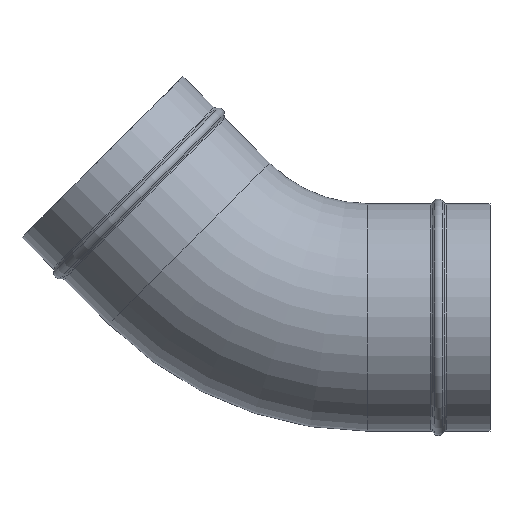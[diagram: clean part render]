
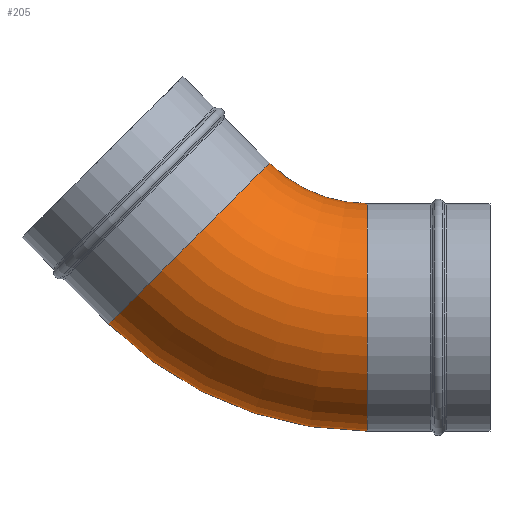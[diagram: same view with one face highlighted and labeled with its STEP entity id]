
A CAD part, top view. The second image highlights one B-rep face of the part: STEP entity #205.
In plain terms, the highlighted toroidal (fillet/blend) face has major radius 168 mm and minor radius 76 mm.
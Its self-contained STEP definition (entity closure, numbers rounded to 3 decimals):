
#205=ADVANCED_FACE('',(#295),#267,.T.);
#267=TOROIDAL_SURFACE('',#994,168.,76.);
#295=FACE_OUTER_BOUND('',#355,.T.);
#355=EDGE_LOOP('',(#419,#420,#421,#422,#423,#424));
#419=ORIENTED_EDGE('',*,*,#755,.T.);
#420=ORIENTED_EDGE('',*,*,#756,.T.);
#421=ORIENTED_EDGE('',*,*,#757,.T.);
#422=ORIENTED_EDGE('',*,*,#758,.F.);
#423=ORIENTED_EDGE('',*,*,#759,.F.);
#424=ORIENTED_EDGE('',*,*,#760,.F.);
#683=VERTEX_POINT('',#1510);
#684=VERTEX_POINT('',#1511);
#685=VERTEX_POINT('',#1513);
#686=VERTEX_POINT('',#1515);
#687=VERTEX_POINT('',#1517);
#688=VERTEX_POINT('',#1519);
#755=EDGE_CURVE('',#683,#684,#887,.T.);
#756=EDGE_CURVE('',#684,#685,#888,.T.);
#757=EDGE_CURVE('',#685,#686,#889,.T.);
#758=EDGE_CURVE('',#687,#686,#890,.T.);
#759=EDGE_CURVE('',#688,#687,#891,.T.);
#760=EDGE_CURVE('',#683,#688,#892,.T.);
#887=CIRCLE('',#988,76.);
#888=CIRCLE('',#989,76.);
#889=CIRCLE('',#990,244.);
#890=CIRCLE('',#991,76.);
#891=CIRCLE('',#992,76.);
#892=CIRCLE('',#993,92.);
#988=AXIS2_PLACEMENT_3D('',#1509,#1152,#1153);
#989=AXIS2_PLACEMENT_3D('',#1512,#1154,#1155);
#990=AXIS2_PLACEMENT_3D('',#1514,#1156,#1157);
#991=AXIS2_PLACEMENT_3D('',#1516,#1158,#1159);
#992=AXIS2_PLACEMENT_3D('',#1518,#1160,#1161);
#993=AXIS2_PLACEMENT_3D('',#1520,#1162,#1163);
#994=AXIS2_PLACEMENT_3D('',#1521,#1164,#1165);
#1152=DIRECTION('',(0.707,-0.707,0.));
#1153=DIRECTION('',(0.707,0.707,0.));
#1154=DIRECTION('',(0.707,-0.707,0.));
#1155=DIRECTION('',(0.,0.,1.));
#1156=DIRECTION('',(0.,0.,1.));
#1157=DIRECTION('',(-0.707,-0.707,0.));
#1158=DIRECTION('',(1.,0.,0.));
#1159=DIRECTION('',(0.,0.,1.));
#1160=DIRECTION('',(1.,0.,0.));
#1161=DIRECTION('',(0.,1.,0.));
#1162=DIRECTION('',(0.,0.,1.));
#1163=DIRECTION('',(-0.707,-0.707,0.));
#1164=DIRECTION('',(0.,0.,1.));
#1165=DIRECTION('',(-0.707,-0.707,0.));
#1509=CARTESIAN_POINT('',(-118.794,-118.794,0.));
#1510=CARTESIAN_POINT('',(-65.054,-65.054,0.));
#1511=CARTESIAN_POINT('',(-118.794,-118.794,76.));
#1512=CARTESIAN_POINT('',(-118.794,-118.794,0.));
#1513=CARTESIAN_POINT('',(-172.534,-172.534,0.));
#1514=CARTESIAN_POINT('',(0.,0.,0.));
#1515=CARTESIAN_POINT('',(0.,-244.,0.));
#1516=CARTESIAN_POINT('',(0.,-168.,0.));
#1517=CARTESIAN_POINT('',(0.,-168.,76.));
#1518=CARTESIAN_POINT('',(0.,-168.,0.));
#1519=CARTESIAN_POINT('',(0.,-92.,0.));
#1520=CARTESIAN_POINT('',(0.,0.,0.));
#1521=CARTESIAN_POINT('',(0.,0.,0.));
